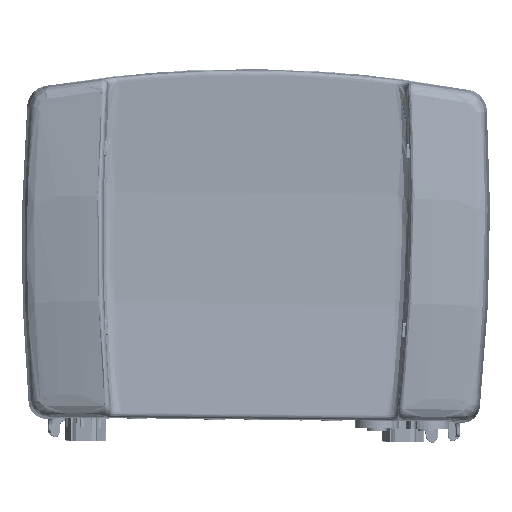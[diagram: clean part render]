
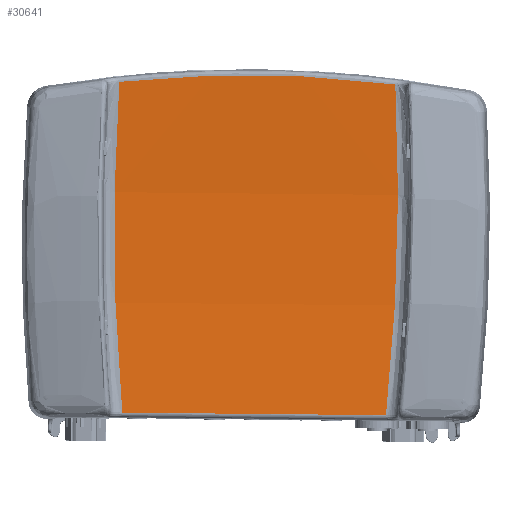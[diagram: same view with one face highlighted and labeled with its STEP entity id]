
A CAD part, top view. The second image highlights one B-rep face of the part: STEP entity #30641.
In plain terms, the highlighted cylindrical face has radius 1504.5 mm (diameter 3009 mm), a partial arc.
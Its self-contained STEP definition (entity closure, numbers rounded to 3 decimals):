
#2163 = EDGE_LOOP ( 'NONE', ( #118398, #118404, #118410, #118415 ) ) ;
#30641 = ADVANCED_FACE ( 'NONE', ( #159808 ), #159805, .F. ) ;
#48972 = EDGE_CURVE ( 'NONE', #194831, #194849, #301684, .T. ) ;
#48974 = EDGE_CURVE ( 'NONE', #194849, #194857, #338478, .T. ) ;
#48976 = EDGE_CURVE ( 'NONE', #194857, #194859, #301685, .T. ) ;
#48979 = EDGE_CURVE ( 'NONE', #194859, #194831, #301686, .T. ) ;
#76795 = CARTESIAN_POINT ( 'NONE',  ( -58.78, 124.656, -263.195 ) ) ;
#76809 = CARTESIAN_POINT ( 'NONE',  ( -56.82, -97.947, -256.495 ) ) ;
#76815 = CARTESIAN_POINT ( 'NONE',  ( 120.657, -99.672, -256.495 ) ) ;
#76816 = CARTESIAN_POINT ( 'NONE',  ( 126.943, 122.851, -263.195 ) ) ;
#118398 = ORIENTED_EDGE ( 'NONE', *, *, #48972, .T. ) ;
#118404 = ORIENTED_EDGE ( 'NONE', *, *, #48974, .T. ) ;
#118410 = ORIENTED_EDGE ( 'NONE', *, *, #48976, .T. ) ;
#118415 = ORIENTED_EDGE ( 'NONE', *, *, #48979, .T. ) ;
#128596 = AXIS2_PLACEMENT_3D ( 'NONE', #159787, #159795, #159816 ) ;
#159787 = CARTESIAN_POINT ( 'NONE',  ( 63.527, 57.324, 1239.85 ) ) ;
#159795 = DIRECTION ( 'NONE',  ( -1., 0.01, 0. ) ) ;
#159805 = CYLINDRICAL_SURFACE ( 'NONE', #128596, 1504.5 ) ;
#159808 = FACE_OUTER_BOUND ( 'NONE', #2163, .T. ) ;
#159816 = DIRECTION ( 'NONE',  ( 0., 0., 1. ) ) ;
#194831 = VERTEX_POINT ( 'NONE', #76795 ) ;
#194849 = VERTEX_POINT ( 'NONE', #76809 ) ;
#194857 = VERTEX_POINT ( 'NONE', #76815 ) ;
#194859 = VERTEX_POINT ( 'NONE', #76816 ) ;
#296426 = VECTOR ( 'NONE', #338500, 1000. ) ;
#301684 = B_SPLINE_CURVE_WITH_KNOTS ( 'NONE', 3,
 ( #338475, #338378, #338461, #338480, #338483, #338487 ),
 .UNSPECIFIED., .F., .F.,
 ( 4, 2, 4 ),
 ( 0.003, 0.115, 0.226 ),
 .UNSPECIFIED. ) ;
#301685 = B_SPLINE_CURVE_WITH_KNOTS ( 'NONE', 3,
 ( #338507, #338493, #338466, #338514, #338516, #338520 ),
 .UNSPECIFIED., .F., .F.,
 ( 4, 2, 4 ),
 ( 0.003, 0.115, 0.226 ),
 .UNSPECIFIED. ) ;
#301686 = B_SPLINE_CURVE_WITH_KNOTS ( 'NONE', 3,
 ( #338503, #338511, #338532, #338536, #338538, #338540, #338543, #338547, #338550 ),
 .UNSPECIFIED., .F., .F.,
 ( 4, 2, 1, 2, 4 ),
 ( 0., 0.046, 0.093, 0.139, 0.186 ),
 .UNSPECIFIED. ) ;
#338378 = CARTESIAN_POINT ( 'NONE',  ( -61.387, 87.559, -264.829 ) ) ;
#338461 = CARTESIAN_POINT ( 'NONE',  ( -62.526, 50.405, -265.088 ) ) ;
#338466 = CARTESIAN_POINT ( 'NONE',  ( 127.138, -25.855, -262.844 ) ) ;
#338475 = CARTESIAN_POINT ( 'NONE',  ( -58.78, 124.656, -263.195 ) ) ;
#338478 = LINE ( 'NONE', #338491, #296426 ) ;
#338480 = CARTESIAN_POINT ( 'NONE',  ( -61.864, -24.018, -262.844 ) ) ;
#338483 = CARTESIAN_POINT ( 'NONE',  ( -60.065, -61.066, -260.347 ) ) ;
#338487 = CARTESIAN_POINT ( 'NONE',  ( -56.82, -97.947, -256.495 ) ) ;
#338491 = CARTESIAN_POINT ( 'NONE',  ( 62.007, -99.102, -256.495 ) ) ;
#338493 = CARTESIAN_POINT ( 'NONE',  ( 124.619, -62.861, -260.347 ) ) ;
#338500 = DIRECTION ( 'NONE',  ( 1., -0.01, 0. ) ) ;
#338503 = CARTESIAN_POINT ( 'NONE',  ( 126.943, 122.851, -263.195 ) ) ;
#338507 = CARTESIAN_POINT ( 'NONE',  ( 120.657, -99.672, -256.495 ) ) ;
#338511 = CARTESIAN_POINT ( 'NONE',  ( 111.484, 124.808, -263.116 ) ) ;
#338514 = CARTESIAN_POINT ( 'NONE',  ( 129.246, 48.541, -265.088 ) ) ;
#338516 = CARTESIAN_POINT ( 'NONE',  ( 128.829, 85.711, -264.829 ) ) ;
#338520 = CARTESIAN_POINT ( 'NONE',  ( 126.943, 122.851, -263.195 ) ) ;
#338532 = CARTESIAN_POINT ( 'NONE',  ( 96.02, 126.307, -263.053 ) ) ;
#338536 = CARTESIAN_POINT ( 'NONE',  ( 65.084, 128.405, -262.97 ) ) ;
#338538 = CARTESIAN_POINT ( 'NONE',  ( 34.139, 129.602, -262.926 ) ) ;
#338540 = CARTESIAN_POINT ( 'NONE',  ( 3.176, 129.007, -262.97 ) ) ;
#338543 = CARTESIAN_POINT ( 'NONE',  ( -27.795, 127.511, -263.053 ) ) ;
#338547 = CARTESIAN_POINT ( 'NONE',  ( -43.285, 126.312, -263.116 ) ) ;
#338550 = CARTESIAN_POINT ( 'NONE',  ( -58.78, 124.656, -263.195 ) ) ;
